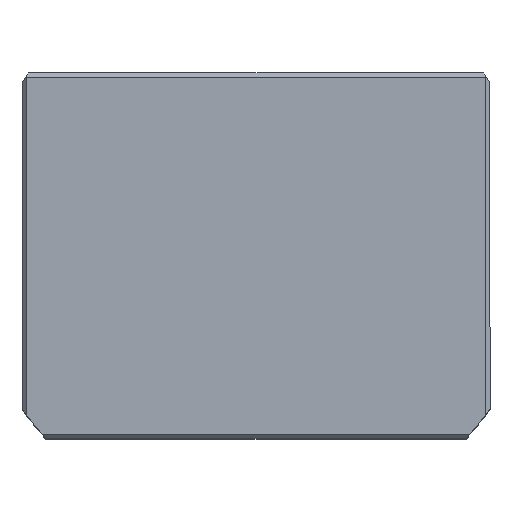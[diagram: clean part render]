
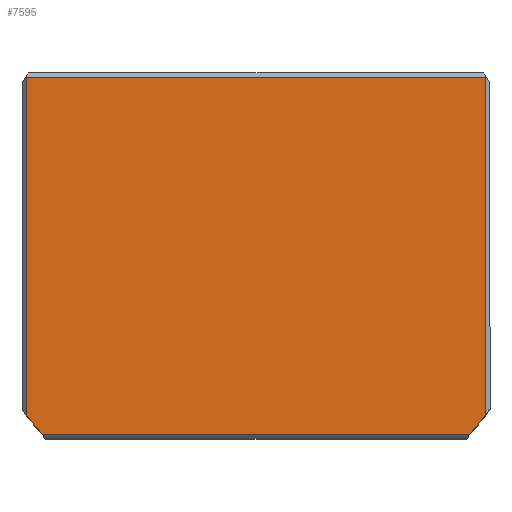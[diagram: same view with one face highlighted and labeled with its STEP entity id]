
A CAD part, top view. The second image highlights one B-rep face of the part: STEP entity #7595.
In plain terms, the highlighted planar face has unit normal (0, 0, 1) as drawn and (0, 0, -1) by its records, which use the part's own axes.
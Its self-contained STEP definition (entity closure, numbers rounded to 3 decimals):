
#344 = AXIS2_PLACEMENT_3D ( 'NONE', #3357, #13602, #4798 ) ;
#844 = EDGE_CURVE ( 'NONE', #3812, #18886, #12366, .T. ) ;
#878 = VECTOR ( 'NONE', #6780, 1000. ) ;
#1559 = FACE_OUTER_BOUND ( 'NONE', #4073, .T. ) ;
#1774 = VERTEX_POINT ( 'NONE', #7050 ) ;
#2144 = ORIENTED_EDGE ( 'NONE', *, *, #844, .T. ) ;
#3282 = PLANE ( 'NONE',  #10519 ) ;
#3357 = CARTESIAN_POINT ( 'NONE',  ( 0., -2.5, 0. ) ) ;
#3812 = VERTEX_POINT ( 'NONE', #7071 ) ;
#4073 = EDGE_LOOP ( 'NONE', ( #8374, #2144, #13401, #15821, #17795, #17316 ) ) ;
#4722 = DIRECTION ( 'NONE',  ( 1., 0., 0. ) ) ;
#4798 = DIRECTION ( 'NONE',  ( 1., 0., 0. ) ) ;
#5285 = CARTESIAN_POINT ( 'NONE',  ( -56., 0., 0. ) ) ;
#6141 = EDGE_CURVE ( 'NONE', #3812, #14342, #8975, .T. ) ;
#6659 = DIRECTION ( 'NONE',  ( 0., -1., 0. ) ) ;
#6756 = CARTESIAN_POINT ( 'NONE',  ( 0., -2.5, 0. ) ) ;
#6780 = DIRECTION ( 'NONE',  ( 0., 1., 0. ) ) ;
#7050 = CARTESIAN_POINT ( 'NONE',  ( -56., 38.661, 0. ) ) ;
#7071 = CARTESIAN_POINT ( 'NONE',  ( 56., 38.661, 0. ) ) ;
#7278 = EDGE_CURVE ( 'NONE', #16723, #1774, #7317, .T. ) ;
#7317 = CIRCLE ( 'NONE', #12796, 69.5 ) ;
#7419 = EDGE_CURVE ( 'NONE', #18886, #15100, #14173, .T. ) ;
#7595 = ADVANCED_FACE ( 'NONE', ( #1559 ), #3282, .F. ) ;
#7637 = CARTESIAN_POINT ( 'NONE',  ( 56., -43.5, 0. ) ) ;
#7975 = VECTOR ( 'NONE', #6659, 1000. ) ;
#8042 = LINE ( 'NONE', #9224, #11488 ) ;
#8259 = DIRECTION ( 'NONE',  ( 1., 0., 0. ) ) ;
#8374 = ORIENTED_EDGE ( 'NONE', *, *, #6141, .F. ) ;
#8747 = LINE ( 'NONE', #5285, #878 ) ;
#8975 = CIRCLE ( 'NONE', #344, 69.5 ) ;
#9224 = CARTESIAN_POINT ( 'NONE',  ( 0., 43.5, 0. ) ) ;
#9979 = CARTESIAN_POINT ( 'NONE',  ( -52.098, 43.5, 0. ) ) ;
#10519 = AXIS2_PLACEMENT_3D ( 'NONE', #10572, #13529, #4722 ) ;
#10572 = CARTESIAN_POINT ( 'NONE',  ( 0., 0., 0. ) ) ;
#10834 = VECTOR ( 'NONE', #17543, 1000. ) ;
#11488 = VECTOR ( 'NONE', #17836, 1000. ) ;
#12027 = EDGE_CURVE ( 'NONE', #15100, #1774, #8747, .T. ) ;
#12366 = LINE ( 'NONE', #14523, #7975 ) ;
#12796 = AXIS2_PLACEMENT_3D ( 'NONE', #6756, #16898, #8259 ) ;
#13401 = ORIENTED_EDGE ( 'NONE', *, *, #7419, .T. ) ;
#13529 = DIRECTION ( 'NONE',  ( 0., 0., 1. ) ) ;
#13602 = DIRECTION ( 'NONE',  ( 0., 0., 1. ) ) ;
#14064 = CARTESIAN_POINT ( 'NONE',  ( 0., -43.5, 0. ) ) ;
#14173 = LINE ( 'NONE', #14064, #10834 ) ;
#14342 = VERTEX_POINT ( 'NONE', #18322 ) ;
#14523 = CARTESIAN_POINT ( 'NONE',  ( 56., 0., 0. ) ) ;
#14750 = EDGE_CURVE ( 'NONE', #16723, #14342, #8042, .T. ) ;
#15100 = VERTEX_POINT ( 'NONE', #15464 ) ;
#15464 = CARTESIAN_POINT ( 'NONE',  ( -56., -43.5, 0. ) ) ;
#15821 = ORIENTED_EDGE ( 'NONE', *, *, #12027, .T. ) ;
#16723 = VERTEX_POINT ( 'NONE', #9979 ) ;
#16898 = DIRECTION ( 'NONE',  ( 0., 0., 1. ) ) ;
#17316 = ORIENTED_EDGE ( 'NONE', *, *, #14750, .T. ) ;
#17543 = DIRECTION ( 'NONE',  ( -1., 0., 0. ) ) ;
#17795 = ORIENTED_EDGE ( 'NONE', *, *, #7278, .F. ) ;
#17836 = DIRECTION ( 'NONE',  ( 1., 0., 0. ) ) ;
#18322 = CARTESIAN_POINT ( 'NONE',  ( 52.098, 43.5, 0. ) ) ;
#18886 = VERTEX_POINT ( 'NONE', #7637 ) ;
